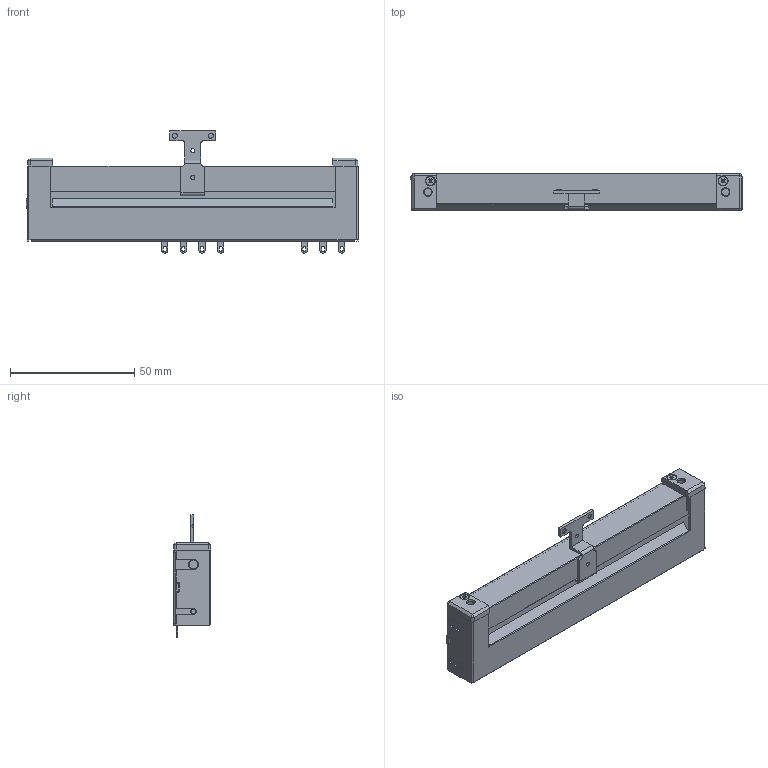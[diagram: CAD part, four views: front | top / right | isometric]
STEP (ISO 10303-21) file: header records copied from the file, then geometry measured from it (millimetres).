
FILE_DESCRIPTION(('FreeCAD Model'),'2;1');
FILE_NAME('Open CASCADE Shape Model','2023-04-07T11:17:30',(''),(''), 'Open CASCADE STEP processor 7.6','FreeCAD','Unknown');
FILE_SCHEMA(('AUTOMOTIVE_DESIGN { 1 0 10303 214 1 1 1 1 }'));
Length unit declared in the file: millimetre
Products named in the file (1): 2cpa-9x02
Bounding box: 133.8 x 15.2 x 49.3 mm (x, y, z)
Volume: 49467.5 mm3; surface area: 26220.2 mm2
Topology: 1 solids, 6 shells, 551 faces, 1423 edges, 889 vertices
Faces by surface type: plane 383, cylinder 109, cone 31, bspline 18, torus 4, revolution 4, sphere 2
Full cylindrical faces by diameter (mm): 1.1 x2, 1.5 x2, 1.6 x4, 2 x8, 2.2 x7, 2.6 x3, 3 x2, 3.6 x2, 4 x8
Entity records: 37748 total; most frequent: CARTESIAN_POINT 7720, DIRECTION 4873, LINE 2971, VECTOR 2971, ORIENTED_EDGE 2844, PCURVE 2838, DEFINITIONAL_REPRESENTATION 2838, EDGE_CURVE 1419
